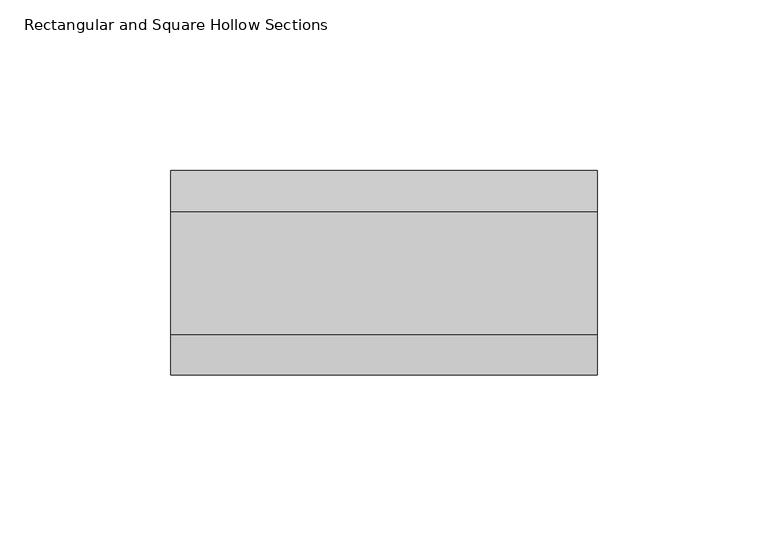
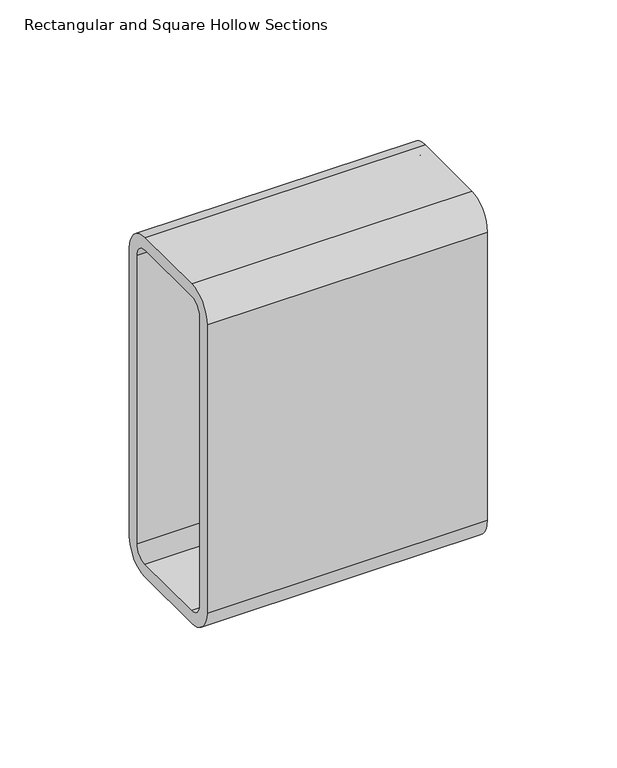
"""IFC4 building model written with IfcOpenShell, lengths in millimetres: beam geometry, Rectangular and Square Hollow Sections : TREC160x60x6."""

from ifc_helpers import new_model, si_unit, point, frame, frame_2d, origin, place, context, project, spatial, polyline, circle_curve, trimmed, segment, composite_curve, outline, extrude, source, transform, mapped, element, save


def rectangular_and_square_hollow_sections_1d99fe36(model_context):
    return source(origin(), model_context, "Body", "SweptSolid", [
        extrude(outline(composite_curve([segment(polyline([(30.0, 68.0), (30.0, -68.0)]), True, "CONTINUOUS"), segment(trimmed(circle_curve(frame_2d((18.0, -68.0)), 12.0), [point((30.0, -68.0))], [point((18.0, -80.0))], False, "CARTESIAN"), True, "CONTINUOUS"), segment(polyline([(18.0, -80.0), (-18.0, -80.0)]), True, "CONTINUOUS"), segment(trimmed(circle_curve(frame_2d((-18.0, -68.0)), 12.0), [point((-18.0, -80.0))], [point((-30.0, -68.0))], False, "CARTESIAN"), True, "CONTINUOUS"), segment(polyline([(-30.0, -68.0), (-30.0, 68.0)]), True, "CONTINUOUS"), segment(trimmed(circle_curve(frame_2d((-18.0, 68.0)), 12.0), [point((-30.0, 68.0))], [point((-18.0, 80.0))], False, "CARTESIAN"), True, "CONTINUOUS"), segment(polyline([(-18.0, 80.0), (18.0, 80.0)]), True, "CONTINUOUS"), segment(trimmed(circle_curve(frame_2d((18.0, 68.0)), 12.0), [point((18.0, 80.0))], [point((30.0, 68.0))], False, "CARTESIAN"), True, "CONTINUOUS")], self_intersect=False), holes=[composite_curve([segment(trimmed(circle_curve(frame_2d((-18.0, 68.0)), 6.0), [point((-18.0, 74.0))], [point((-24.0, 68.0))], True, "CARTESIAN"), True, "CONTINUOUS"), segment(polyline([(-24.0, 68.0), (-24.0, -68.0)]), True, "CONTINUOUS"), segment(trimmed(circle_curve(frame_2d((-18.0, -68.0)), 6.0), [point((-24.0, -68.0))], [point((-18.0, -74.0))], True, "CARTESIAN"), True, "CONTINUOUS"), segment(polyline([(-18.0, -74.0), (18.0, -74.0)]), True, "CONTINUOUS"), segment(trimmed(circle_curve(frame_2d((18.0, -68.0)), 6.0), [point((18.0, -74.0))], [point((24.0, -68.0))], True, "CARTESIAN"), True, "CONTINUOUS"), segment(polyline([(24.0, -68.0), (24.0, 68.0)]), True, "CONTINUOUS"), segment(trimmed(circle_curve(frame_2d((18.0, 68.0)), 6.0), [point((24.0, 68.0))], [point((18.0, 74.0))], True, "CARTESIAN"), True, "CONTINUOUS"), segment(polyline([(18.0, 74.0), (-18.0, 74.0)]), True, "CONTINUOUS")], self_intersect=False)]), frame((-69.0, 0.0, 0.0), z_axis=(1.0, 0.0, 0.0), x_axis=(0.0, 1.0, 0.0)), (0.0, 0.0, 1.0), 125.0),
    ])


if __name__ == "__main__":
    model = new_model("IFC4")
    model_context = context("Model", 3, world=origin())
    ifc_project = project(units=[si_unit("LENGTHUNIT", "METRE", prefix="MILLI")], contexts=[model_context])
    site = spatial("IfcSite", under=ifc_project)
    building = spatial("IfcBuilding", under=site)
    placement = place(None, origin())
    rectangular_and_square_hollow_sections_shape = rectangular_and_square_hollow_sections_1d99fe36(model_context)
    element("IfcBeam", 1, ObjectType="Rectangular and Square Hollow Sections : TREC160x60x6", at=placement, inside=building, context=model_context, shape_type="MappedRepresentation", body=[
        mapped(rectangular_and_square_hollow_sections_shape, transform((0.0, 0.0, 0.0), x_axis=(1.0, 0.0, 0.0), y_axis=(0.0, 1.0, 0.0), z_axis=(0.0, 0.0, 1.0))),
    ])
    save(model, "model.ifc")
